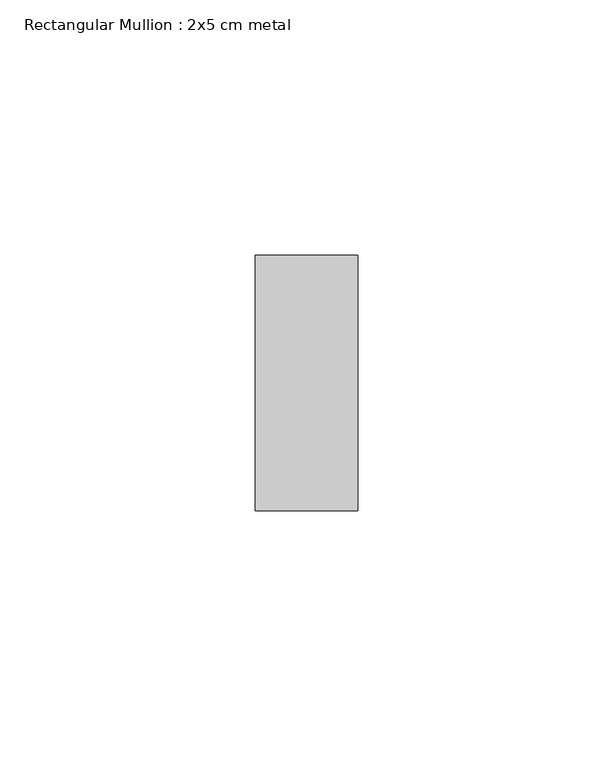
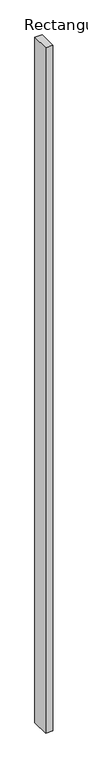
"""IFC4 building model written with IfcOpenShell, lengths in millimetres: member geometry, Rectangular Mullion : 2x5 cm metal."""

import ifcopenshell
import ifcopenshell.guid

model = None  # the IFC model being written
_history = None  # IfcOwnerHistory: only IFC2X3 demands one
_inside = {}  # id of a spatial element -> (the spatial element, [elements in it])
_under = {}  # id of a project, library or spatial element -> (it, [spatial elements below it])
_declared = {}  # id of a project -> (the project, [libraries it declares])
_typed = {}  # id of a type object -> (the type object, [elements of that type])
_made_of = {}  # id of a material, layer set ... -> (it, [elements and type objects made of it])


def new_model(schema):
    """Start an empty IFC model of exactly this schema.

    Asked for "IFC4X3", IfcOpenShell would pick the latest addendum, in which some entities
    have other attributes; the version numbers below select the first issue.
    IFC2X3 requires an IfcOwnerHistory on every rooted entity: one is made here for all.
    """
    global model, _history
    if schema == "IFC4X3":
        model = ifcopenshell.file(schema_version=(4, 3, 0, 0))
    else:
        model = ifcopenshell.file(schema=schema)
    _inside.clear()
    _under.clear()
    _declared.clear()
    _typed.clear()
    _made_of.clear()
    _history = None
    if model.schema == "IFC2X3":
        org = make("IfcOrganization", Name="unknown")
        user = make(
            "IfcPersonAndOrganization",
            ThePerson=make("IfcPerson", FamilyName="unknown"),
            TheOrganization=org,
        )
        app = make(
            "IfcApplication",
            ApplicationDeveloper=org,
            Version="unknown",
            ApplicationFullName="unknown",
            ApplicationIdentifier="unknown",
        )
        _history = make(
            "IfcOwnerHistory",
            OwningUser=user,
            OwningApplication=app,
            ChangeAction="ADDED",
            CreationDate=0,
        )
    return model


def make(cls, **values):
    """One entity of the class cls with the attributes given. An attribute that is None is left unset."""
    return model.create_entity(
        cls, **{name: value for name, value in values.items() if value is not None}
    )


def rooted(cls, **values):
    """An entity with a GlobalId (a new one), such as an element, a storey or a relation."""
    return make(cls, GlobalId=ifcopenshell.guid.new(), OwnerHistory=_history, **values)


def si_unit(unit_type, name, prefix=None):
    """IfcSIUnit, for example si_unit("LENGTHUNIT", "METRE", prefix="MILLI")."""
    return make("IfcSIUnit", UnitType=unit_type, Prefix=prefix, Name=name)


def assignment(units):
    """IfcUnitAssignment: the units of a project."""
    return None if units is None else make("IfcUnitAssignment", Units=units)


def point(xyz):
    """IfcCartesianPoint."""
    return None if xyz is None else make("IfcCartesianPoint", Coordinates=xyz)


def direction(xyz):
    """IfcDirection."""
    return None if xyz is None else make("IfcDirection", DirectionRatios=xyz)


def frame(location, z_axis=None, x_axis=None):
    """IfcAxis2Placement3D, a coordinate frame: its origin and axes. An axis left out is left unset."""
    return make(
        "IfcAxis2Placement3D",
        Location=point(location),
        Axis=direction(z_axis),
        RefDirection=direction(x_axis),
    )


def origin():
    """The frame at (0, 0, 0) with its axes left unset."""
    return frame((0.0, 0.0, 0.0))


def place(relative_to, where):
    """IfcLocalPlacement: puts the frame where relative to a parent placement (None: the world)."""
    return make(
        "IfcLocalPlacement", PlacementRelTo=relative_to, RelativePlacement=where
    )


def context(
    kind, dimensions, precision=None, world=None, true_north=None, identifier=None
):
    """IfcGeometricRepresentationContext, for example the 3D "Model" context."""
    return make(
        "IfcGeometricRepresentationContext",
        ContextIdentifier=identifier,
        ContextType=kind,
        CoordinateSpaceDimension=dimensions,
        Precision=precision,
        WorldCoordinateSystem=world,
        TrueNorth=true_north,
    )


def project(units=None, contexts=None):
    """IfcProject with its units and contexts."""
    return rooted(
        "IfcProject",
        Name="project",
        RepresentationContexts=contexts,
        UnitsInContext=assignment(units),
    )


def spatial(cls, under=None, at=None, **own):
    """A site, building, storey or space (cls), placed at a placement, below another one or the project."""
    s = rooted(cls, ObjectPlacement=at, **own)
    if under is not None:
        _under.setdefault(under.id(), (under, []))[1].append(s)
    return s


def polyline(points):
    """IfcPolyline through the points."""
    return make("IfcPolyline", Points=[point(p) for p in points])


def outline(outer, holes=None, kind="AREA"):
    """IfcArbitraryClosedProfileDef: a profile drawn as a closed curve; with holes, ...WithVoids."""
    if holes is None:
        return make("IfcArbitraryClosedProfileDef", ProfileType=kind, OuterCurve=outer)
    return make(
        "IfcArbitraryProfileDefWithVoids",
        ProfileType=kind,
        OuterCurve=outer,
        InnerCurves=holes,
    )


def extrude(swept, where, along, depth):
    """IfcExtrudedAreaSolid: the profile swept, set in the frame where, extruded along a direction by depth."""
    return make(
        "IfcExtrudedAreaSolid",
        SweptArea=swept,
        Position=where,
        ExtrudedDirection=direction(along),
        Depth=depth,
    )


def shape(context_of_items, identifier, shape_type, items):
    """IfcShapeRepresentation: the items that make up one representation, for example the "Body"."""
    return make(
        "IfcShapeRepresentation",
        ContextOfItems=context_of_items,
        RepresentationIdentifier=identifier,
        RepresentationType=shape_type,
        Items=items,
    )


def source(mapping_origin, context_of_items, identifier, shape_type, items):
    """IfcRepresentationMap: a shape defined once, which mapped items show again and again."""
    return make(
        "IfcRepresentationMap",
        MappingOrigin=mapping_origin,
        MappedRepresentation=shape(context_of_items, identifier, shape_type, items),
    )


def transform(
    local_origin,
    x_axis=None,
    y_axis=None,
    z_axis=None,
    scale=None,
    scale2=None,
    scale3=None,
    uniform=True,
):
    """IfcCartesianTransformationOperator3D, or its non-uniform kind. x_axis, y_axis, z_axis: its Axis1, 2, 3."""
    if uniform:
        return make(
            "IfcCartesianTransformationOperator3D",
            Axis1=direction(x_axis),
            Axis2=direction(y_axis),
            LocalOrigin=point(local_origin),
            Scale=scale,
            Axis3=direction(z_axis),
        )
    return make(
        "IfcCartesianTransformationOperator3DnonUniform",
        Axis1=direction(x_axis),
        Axis2=direction(y_axis),
        LocalOrigin=point(local_origin),
        Scale=scale,
        Axis3=direction(z_axis),
        Scale2=scale2,
        Scale3=scale3,
    )


def mapped(mapping_source, mapping_target):
    """IfcMappedItem: shows the shape of a source again, moved by a transform."""
    return make(
        "IfcMappedItem", MappingSource=mapping_source, MappingTarget=mapping_target
    )


def made_of(thing, what):
    """Note that an element or type object is made of a material, layer set ...; save() writes the relation."""
    if what is not None:
        _made_of.setdefault(what.id(), (what, []))[1].append(thing)
    return thing


def element(
    cls,
    number,
    at=None,
    inside=None,
    cuts=None,
    type_object=None,
    material=None,
    context=None,
    identifier="Body",
    shape_type=None,
    held_by="IfcProductDefinitionShape",
    body=None,
    shapes=None,
    **own,
):
    """One element of the class cls, such as IfcWall. Its Tag is "e" and its number.

    at: its placement. inside: the storey or other place that contains it. cuts: it is an
    opening in that element (IfcRelVoidsElement). A single representation is given by context,
    identifier, shape_type and body (its items); several are given by shapes. held_by: the class
    of the entity that holds the representations. save() writes the other relations.
    """
    e = rooted(cls, Tag="e%d" % number, ObjectPlacement=at, **own)
    if body is not None:
        shapes = [shape(context, identifier, shape_type, body)]
    if shapes is not None:
        e.Representation = make(held_by, Representations=shapes)
    if inside is not None:
        _inside.setdefault(inside.id(), (inside, []))[1].append(e)
    if cuts is not None:
        rooted(
            "IfcRelVoidsElement", RelatingBuildingElement=cuts, RelatedOpeningElement=e
        )
    if type_object is not None:
        _typed.setdefault(type_object.id(), (type_object, []))[1].append(e)
    return made_of(e, material)


def aggregate(whole, parts):
    """IfcRelAggregates: a whole, such as a stair, and the parts it consists of."""
    return rooted("IfcRelAggregates", RelatingObject=whole, RelatedObjects=parts)


def save(model, path):
    """Write the relations noted so far, then the file.

    IfcRelAggregates (storeys below a building ...), IfcRelContainedInSpatialStructure (elements
    in a storey), IfcRelDefinesByType, IfcRelAssociatesMaterial and IfcRelDeclares: one each for
    every whole, place, type object, material and project.
    """
    for whole, parts in _under.values():
        aggregate(whole, parts)
    for where, things in _inside.values():
        rooted(
            "IfcRelContainedInSpatialStructure",
            RelatedElements=things,
            RelatingStructure=where,
        )
    for kind, things in _typed.values():
        rooted("IfcRelDefinesByType", RelatedObjects=things, RelatingType=kind)
    for what, things in _made_of.values():
        rooted("IfcRelAssociatesMaterial", RelatedObjects=things, RelatingMaterial=what)
    for by, libraries in _declared.values():
        rooted("IfcRelDeclares", RelatingContext=by, RelatedDefinitions=libraries)
    model.write(path)


def rectangular_mullion_2x5_cm_metal_3a3b52c4(model_context):
    return source(origin(), model_context, "Body", "SweptSolid", [
        extrude(outline(polyline([(10.0, 25.0), (10.0, -25.0), (-10.0, -25.0), (-10.0, 25.0), (10.0, 25.0)])), frame((0.0, 0.0, -1969.9478632), z_axis=(0.0, 0.0, 1.0), x_axis=(1.0, 0.0, 0.0)), (0.0, 0.0, 1.0), 1969.9478632),
    ])


if __name__ == "__main__":
    model = new_model("IFC4")
    model_context = context("Model", 3, world=origin())
    ifc_project = project(units=[si_unit("LENGTHUNIT", "METRE", prefix="MILLI")], contexts=[model_context])
    site = spatial("IfcSite", under=ifc_project)
    building = spatial("IfcBuilding", under=site)
    placement = place(None, origin())
    rectangular_mullion_2x5_cm_metal_shape = rectangular_mullion_2x5_cm_metal_3a3b52c4(model_context)
    element("IfcMember", 1, ObjectType="Rectangular Mullion : 2x5 cm metal", at=placement, inside=building, context=model_context, shape_type="MappedRepresentation", body=[
        mapped(rectangular_mullion_2x5_cm_metal_shape, transform((0.0, 0.0, 0.0), x_axis=(1.0, 0.0, 0.0), y_axis=(0.0, 1.0, 0.0), z_axis=(0.0, 0.0, 1.0))),
    ])
    save(model, "model.ifc")
